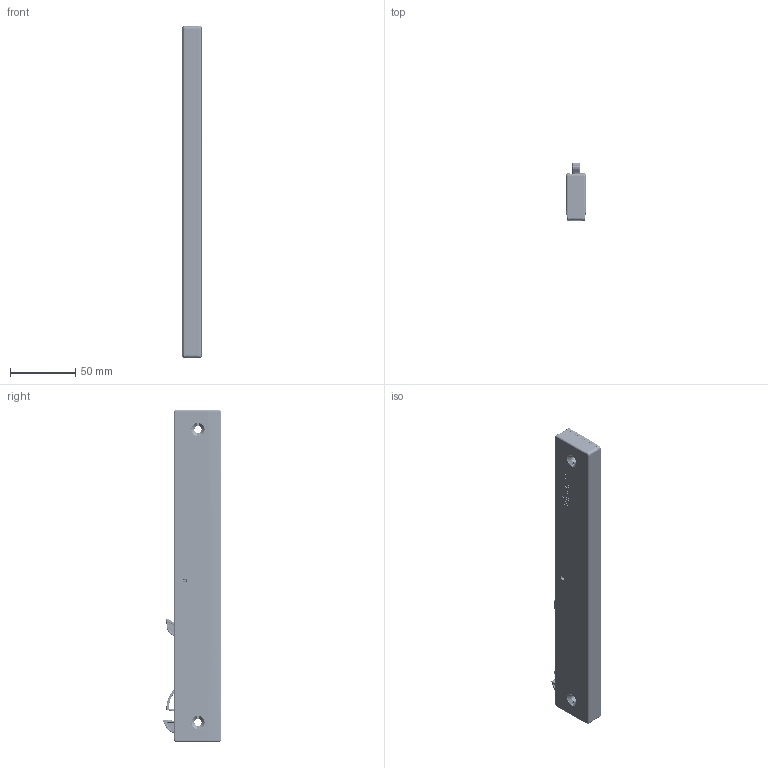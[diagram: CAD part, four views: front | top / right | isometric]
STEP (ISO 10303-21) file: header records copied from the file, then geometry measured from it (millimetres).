
FILE_DESCRIPTION((''),'2;1');
FILE_NAME('CHIUSO-70_ASM','2022-07-07T',('PCammann'),(''),'CREO PARAMETRIC BY PTC INC, 2017020','CREO PARAMETRIC BY PTC INC, 2017020','');
FILE_SCHEMA(('AUTOMOTIVE_DESIGN { 1 0 10303 214 1 1 1 1 }'));
Products named in the file (25): 5-GEH20975; 5-GEH20970; 5-GEH01151; 5-KST00088; 5-DEC00095; 5-KUN01034; 5-DEC00082; 5-KUN00996; 6-FLU00011; F070-08-202_AF2_ASM; 5-KUN81185; 5-KUN81214; 3-BAU00175_AF1_ASM; 5-KUN81179; 5-FED00565_AF1; 3-BAU00151_AF1_ASM; C11308030109; 800799; E070-08-007_EIN_ASM; F070-08-202_AF3_ASM; 3-BAU00175_AF2_ASM; 5-FED00565_AF2; 3-BAU00151_AF2_ASM; E070-08-007_AUS_ASM; CHIUSO-70_ASM
Assembly tree (42 placements, depth 4):
  CHIUSO-70_ASM
    E070-08-007_EIN_ASM
      5-GEH20975
      5-GEH20970
      F070-08-202_AF2_ASM
        5-GEH01151
        5-KST00088
        5-DEC00095
        5-KUN01034
        5-DEC00082
        5-KUN00996
        6-FLU00011
      3-BAU00175_AF1_ASM
        5-KUN81185
        5-KUN81214
      3-BAU00151_AF1_ASM
        5-KUN81179
        5-FED00565_AF1
      C11308030109  x3
      800799
    E070-08-007_AUS_ASM
      5-GEH20975
      5-GEH20970
      F070-08-202_AF3_ASM
        5-GEH01151
        5-KST00088
        5-DEC00095
        5-KUN01034
        5-DEC00082
        5-KUN00996
        6-FLU00011
      3-BAU00175_AF2_ASM
        5-KUN81185
        5-KUN81214
      3-BAU00151_AF2_ASM
        5-KUN81179
        5-FED00565_AF2
      C11308030109  x3
      800799
Bounding box: 15 x 44.7 x 254 mm (x, y, z)
Volume: 134116.6 mm3; surface area: 169787.9 mm2
Topology: 30 solids, 30 shells, 13636 faces, 31432 edges, 18006 vertices
Faces by surface type: cylinder 4936, plane 3184, bspline 2724, torus 1696, sphere 860, cone 228, extrusion 8
Entity records: 343696 total; most frequent: CARTESIAN_POINT 140985, ORIENTED_EDGE 31290, DIRECTION 29613, PRESENTATION_STYLE_ASSIGNMENT 15661, STYLED_ITEM 15659, CURVE_STYLE 15645, EDGE_CURVE 15645, AXIS2_PLACEMENT_3D 11540
